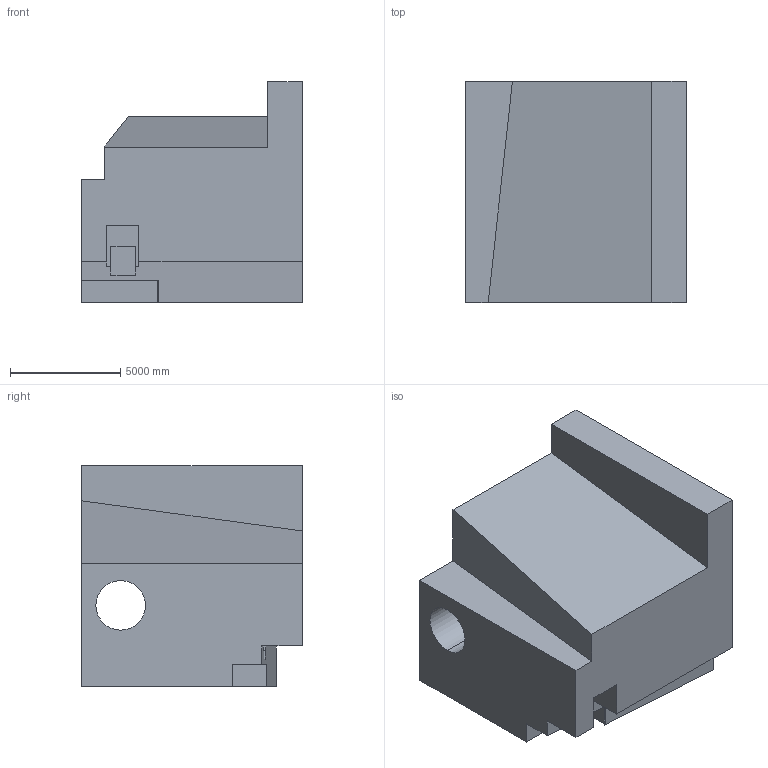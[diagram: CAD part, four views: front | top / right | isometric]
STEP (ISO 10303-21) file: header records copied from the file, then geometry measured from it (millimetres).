
FILE_DESCRIPTION (( 'STEP AP203' ), '1' );
FILE_NAME ('794.STEP', '2022-08-04T15:53:25', ( 'user' ), ( '' ), 'SwSTEP 2.0', 'SolidWorks 2021', '' );
FILE_SCHEMA (( 'CONFIG_CONTROL_DESIGN' ));
Length unit declared in the file: centimetre
Products named in the file (1): 794
Bounding box: 10000 x 10000 x 10000 mm (x, y, z)
Volume: 664246394841.7 mm3; surface area: 699490135.2 mm2
Topology: 1 solids, 1 shells, 36 faces, 96 edges, 64 vertices
Faces by surface type: plane 30, cylinder 6
Entity records: 1193 total; most frequent: CARTESIAN_POINT 197, ORIENTED_EDGE 192, DIRECTION 182, EDGE_CURVE 96, LINE 84, VECTOR 84, VERTEX_POINT 64, AXIS2_PLACEMENT_3D 49
